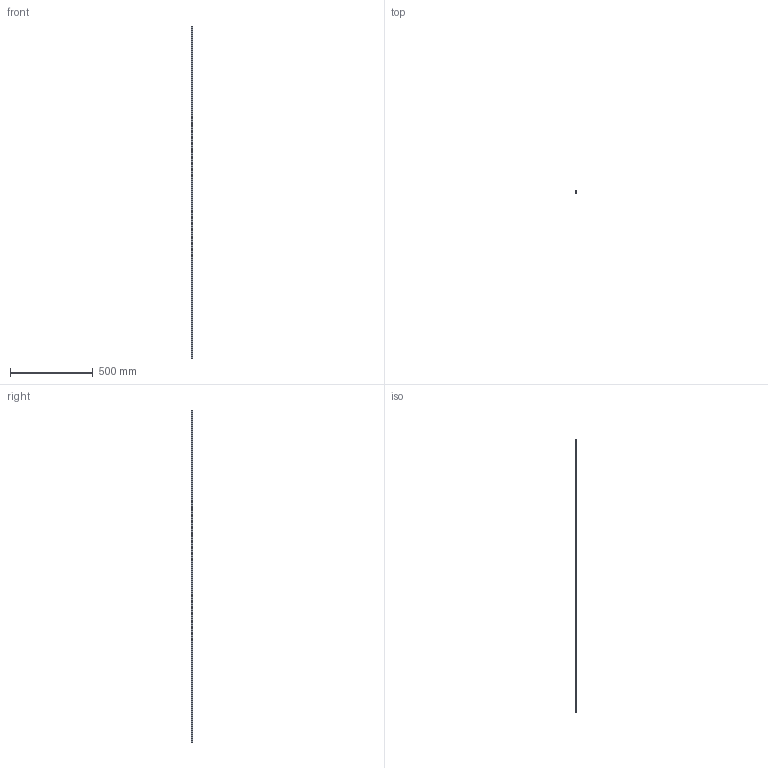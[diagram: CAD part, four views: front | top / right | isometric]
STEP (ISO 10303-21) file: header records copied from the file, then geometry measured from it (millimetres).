
FILE_DESCRIPTION((''),'2;1');
FILE_NAME('C:\Documents and Settings\古川典政\My Documents\Inventor\HP用\MasterData\ACCESSORY\M6\FS2-06.stp','2008-08-05T14:43:21',(''),(''),'Autodesk Inventor 2008','Autodesk Inventor 2008','');
FILE_SCHEMA(('CONFIG_CONTROL_DESIGN'));
Length unit declared in the file: millimetre
Products named in the file (1): FS2-06
Bounding box: 8.7 x 10.3 x 2000 mm (x, y, z)
Volume: 36600 mm3; surface area: 124436.6 mm2
Topology: 1 solids, 1 shells, 26 faces, 72 edges, 48 vertices
Faces by surface type: plane 26
Entity records: 833 total; most frequent: CARTESIAN_POINT 147, ORIENTED_EDGE 144, DIRECTION 126, VECTOR 72, LINE 72, EDGE_CURVE 72, VERTEX_POINT 48, AXIS2_PLACEMENT_3D 27
